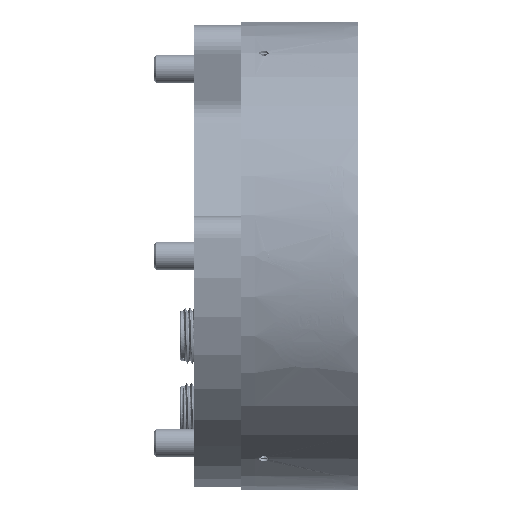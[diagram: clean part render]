
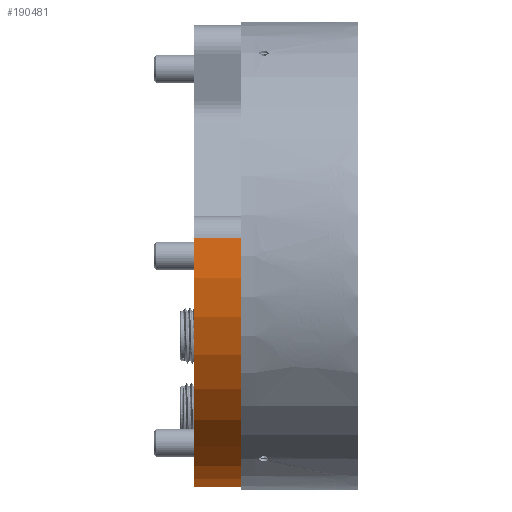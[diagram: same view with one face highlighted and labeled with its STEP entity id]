
A CAD part, front view. The second image highlights one B-rep face of the part: STEP entity #190481.
In plain terms, the highlighted cylindrical face has radius 49.5 mm (diameter 99 mm), a partial arc.
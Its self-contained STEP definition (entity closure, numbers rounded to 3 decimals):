
#8081 = LINE ( 'NONE', #281208, #304517 ) ;
#15485 = LINE ( 'NONE', #216177, #83724 ) ;
#16614 = VERTEX_POINT ( 'NONE', #173634 ) ;
#22109 = VERTEX_POINT ( 'NONE', #82627 ) ;
#24503 = DIRECTION ( 'NONE',  ( -1., 0., 0. ) ) ;
#36976 = CARTESIAN_POINT ( 'NONE',  ( -3., 0., 0. ) ) ;
#52889 = ORIENTED_EDGE ( 'NONE', *, *, #320263, .T. ) ;
#82627 = CARTESIAN_POINT ( 'NONE',  ( -13., 3.907, -49.346 ) ) ;
#83724 = VECTOR ( 'NONE', #217775, 1000. ) ;
#88413 = ORIENTED_EDGE ( 'NONE', *, *, #285865, .F. ) ;
#98602 = CYLINDRICAL_SURFACE ( 'NONE', #248958, 49.5 ) ;
#131548 = DIRECTION ( 'NONE',  ( 1., 0., 0. ) ) ;
#137322 = DIRECTION ( 'NONE',  ( -1., 0., 0. ) ) ;
#149535 = CARTESIAN_POINT ( 'NONE',  ( -13., 0., 0. ) ) ;
#151578 = EDGE_CURVE ( 'NONE', #162333, #183554, #314638, .T. ) ;
#156900 = EDGE_CURVE ( 'NONE', #22109, #162333, #8081, .T. ) ;
#162333 = VERTEX_POINT ( 'NONE', #230221 ) ;
#167634 = AXIS2_PLACEMENT_3D ( 'NONE', #36976, #137322, #237613 ) ;
#170591 = CARTESIAN_POINT ( 'NONE',  ( -13., 0., 0. ) ) ;
#171752 = AXIS2_PLACEMENT_3D ( 'NONE', #170591, #289107, #192021 ) ;
#173634 = CARTESIAN_POINT ( 'NONE',  ( -13., -49.346, 3.907 ) ) ;
#175845 = DIRECTION ( 'NONE',  ( 0., -0.707, 0.707 ) ) ;
#183554 = VERTEX_POINT ( 'NONE', #295633 ) ;
#190481 = ADVANCED_FACE ( 'NONE', ( #323936 ), #98602, .T. ) ;
#192021 = DIRECTION ( 'NONE',  ( 0., -0.707, 0.707 ) ) ;
#216177 = CARTESIAN_POINT ( 'NONE',  ( -13., -49.346, 3.907 ) ) ;
#217775 = DIRECTION ( 'NONE',  ( -1., 0., 0. ) ) ;
#221895 = EDGE_LOOP ( 'NONE', ( #88413, #247380, #247063, #52889 ) ) ;
#230221 = CARTESIAN_POINT ( 'NONE',  ( -3., 3.907, -49.346 ) ) ;
#237613 = DIRECTION ( 'NONE',  ( 0., -0.707, 0.707 ) ) ;
#247063 = ORIENTED_EDGE ( 'NONE', *, *, #151578, .T. ) ;
#247380 = ORIENTED_EDGE ( 'NONE', *, *, #156900, .T. ) ;
#248958 = AXIS2_PLACEMENT_3D ( 'NONE', #149535, #24503, #175845 ) ;
#281208 = CARTESIAN_POINT ( 'NONE',  ( -13., 3.907, -49.346 ) ) ;
#285865 = EDGE_CURVE ( 'NONE', #22109, #16614, #287222, .T. ) ;
#287222 = CIRCLE ( 'NONE', #171752, 49.5 ) ;
#289107 = DIRECTION ( 'NONE',  ( -1., 0., 0. ) ) ;
#295633 = CARTESIAN_POINT ( 'NONE',  ( -3., -49.346, 3.907 ) ) ;
#304517 = VECTOR ( 'NONE', #131548, 1000. ) ;
#314638 = CIRCLE ( 'NONE', #167634, 49.5 ) ;
#320263 = EDGE_CURVE ( 'NONE', #183554, #16614, #15485, .T. ) ;
#323936 = FACE_OUTER_BOUND ( 'NONE', #221895, .T. ) ;
